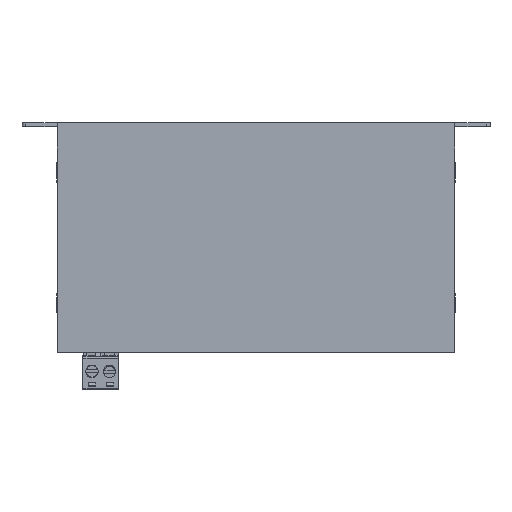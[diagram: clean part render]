
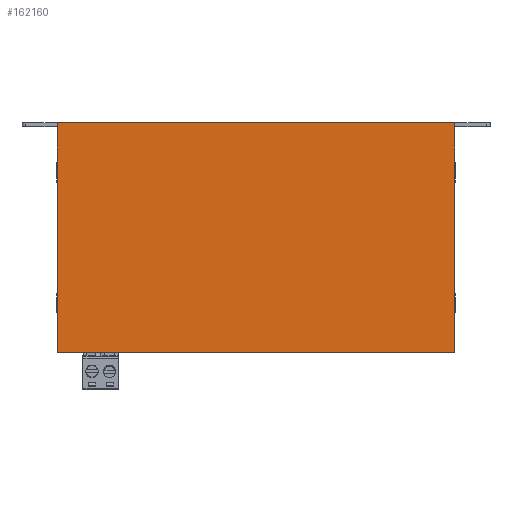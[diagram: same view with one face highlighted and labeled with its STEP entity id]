
A CAD part, top view. The second image highlights one B-rep face of the part: STEP entity #162160.
In plain terms, the highlighted planar face has unit normal (0, 0, 1).
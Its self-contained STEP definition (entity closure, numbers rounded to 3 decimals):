
#161580 = VERTEX_POINT('',#161581);
#161581 = CARTESIAN_POINT('',(10.,0.,36.2));
#161587 = EDGE_CURVE('',#161580,#161588,#161590,.T.);
#161588 = VERTEX_POINT('',#161589);
#161589 = CARTESIAN_POINT('',(10.,65.,36.2));
#161590 = LINE('',#161591,#161592);
#161591 = CARTESIAN_POINT('',(10.,0.,36.2));
#161592 = VECTOR('',#161593,1.);
#161593 = DIRECTION('',(0.,1.,0.));
#162094 = EDGE_CURVE('',#161580,#162095,#162097,.T.);
#162095 = VERTEX_POINT('',#162096);
#162096 = CARTESIAN_POINT('',(122.5,0.,36.2));
#162097 = LINE('',#162098,#162099);
#162098 = CARTESIAN_POINT('',(0.,0.,36.2));
#162099 = VECTOR('',#162100,1.);
#162100 = DIRECTION('',(1.,0.,0.));
#162160 = ADVANCED_FACE('',(#162161),#162179,.T.);
#162161 = FACE_BOUND('',#162162,.T.);
#162162 = EDGE_LOOP('',(#162163,#162164,#162165,#162173));
#162163 = ORIENTED_EDGE('',*,*,#161587,.F.);
#162164 = ORIENTED_EDGE('',*,*,#162094,.T.);
#162165 = ORIENTED_EDGE('',*,*,#162166,.T.);
#162166 = EDGE_CURVE('',#162095,#162167,#162169,.T.);
#162167 = VERTEX_POINT('',#162168);
#162168 = CARTESIAN_POINT('',(122.5,65.,36.2));
#162169 = LINE('',#162170,#162171);
#162170 = CARTESIAN_POINT('',(122.5,0.,36.2));
#162171 = VECTOR('',#162172,1.);
#162172 = DIRECTION('',(0.,1.,0.));
#162173 = ORIENTED_EDGE('',*,*,#162174,.F.);
#162174 = EDGE_CURVE('',#161588,#162167,#162175,.T.);
#162175 = LINE('',#162176,#162177);
#162176 = CARTESIAN_POINT('',(0.,65.,36.2));
#162177 = VECTOR('',#162178,1.);
#162178 = DIRECTION('',(1.,0.,0.));
#162179 = PLANE('',#162180);
#162180 = AXIS2_PLACEMENT_3D('',#162181,#162182,#162183);
#162181 = CARTESIAN_POINT('',(0.,0.,36.2));
#162182 = DIRECTION('',(0.,0.,1.));
#162183 = DIRECTION('',(1.,0.,0.));
